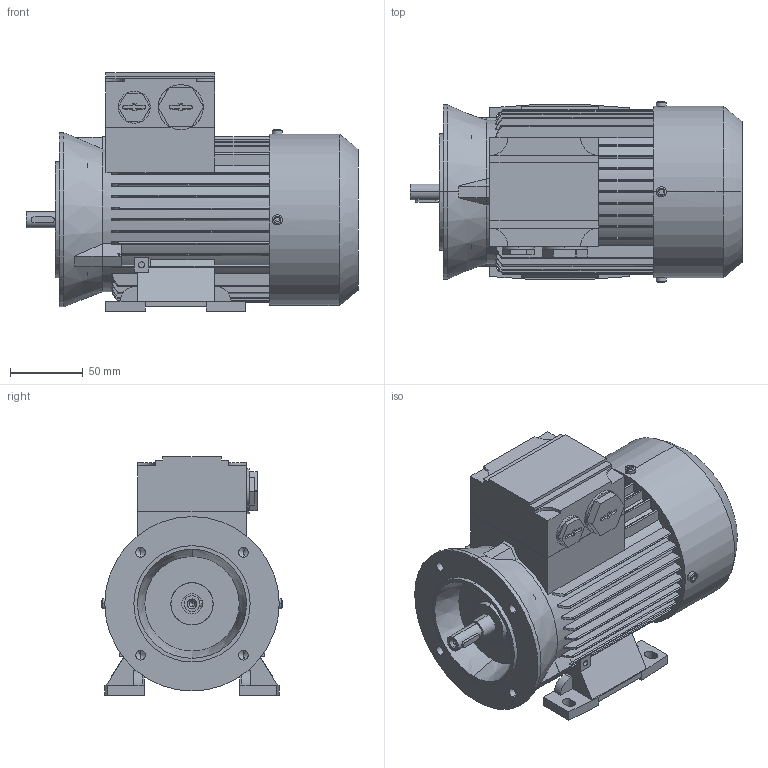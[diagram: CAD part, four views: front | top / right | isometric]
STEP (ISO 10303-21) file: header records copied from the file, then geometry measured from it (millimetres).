
FILE_DESCRIPTION (( 'STEP AP214' ), '1' );
FILE_NAME ('6RN63M02E23 IM2181-B.STEP', '2022-08-22T06:40:36', ( '' ), ( '' ), 'SwSTEP 2.0', 'SolidWorks 2021', '' );
FILE_SCHEMA (( 'AUTOMOTIVE_DESIGN' ));
Length unit declared in the file: millimetre
Products named in the file (1): 6RN63M02E23 IM2181-B
Bounding box: 228.5 x 124 x 164.29 mm (x, y, z)
Volume: 2196341.4 mm3; surface area: 182174.7 mm2
Topology: 1 solids, 1 shells, 526 faces, 1437 edges, 933 vertices
Faces by surface type: plane 312, cylinder 154, torus 34, cone 26
Entity records: 18544 total; most frequent: CARTESIAN_POINT 4987, ORIENTED_EDGE 2854, DIRECTION 2711, EDGE_CURVE 1427, VERTEX_POINT 933, VECTOR 931, LINE 931, AXIS2_PLACEMENT_3D 890
